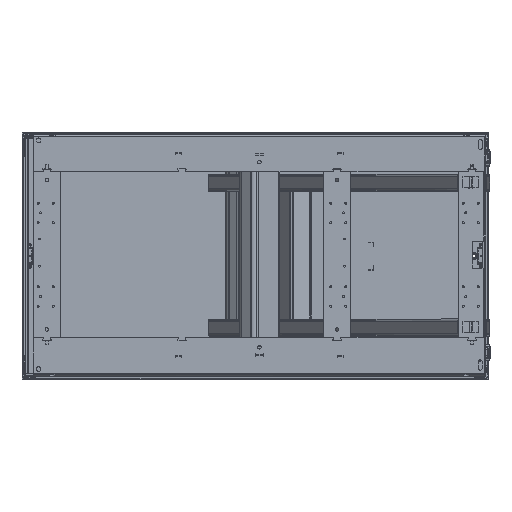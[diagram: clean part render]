
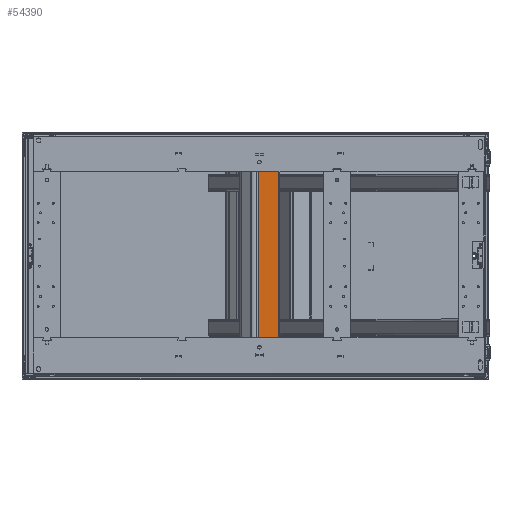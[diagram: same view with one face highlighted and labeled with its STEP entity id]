
A CAD part, top view. The second image highlights one B-rep face of the part: STEP entity #54390.
In plain terms, the highlighted planar face has unit normal (0.794, 0, 0.608) as drawn and (1, 0, 0) by its records, which use the part's own axes.
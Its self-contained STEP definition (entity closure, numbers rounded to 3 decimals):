
#3573=PLANE('',#58209);
#6021=LINE('',#81991,#10830);
#6022=LINE('',#81993,#10831);
#6023=LINE('',#81995,#10832);
#6024=LINE('',#81996,#10833);
#10830=VECTOR('',#66417,120.);
#10831=VECTOR('',#66418,650.);
#10832=VECTOR('',#66419,120.);
#10833=VECTOR('',#66420,650.);
#15640=FACE_OUTER_BOUND('',#18781,.T.);
#18781=EDGE_LOOP('',(#41258,#41259,#41260,#41261));
#25025=VERTEX_POINT('',#81989);
#25026=VERTEX_POINT('',#81990);
#25027=VERTEX_POINT('',#81992);
#25028=VERTEX_POINT('',#81994);
#31068=EDGE_CURVE('',#25025,#25026,#6021,.T.);
#31069=EDGE_CURVE('',#25027,#25026,#6022,.T.);
#31070=EDGE_CURVE('',#25028,#25027,#6023,.T.);
#31071=EDGE_CURVE('',#25028,#25025,#6024,.T.);
#41258=ORIENTED_EDGE('',*,*,#31068,.T.);
#41259=ORIENTED_EDGE('',*,*,#31069,.F.);
#41260=ORIENTED_EDGE('',*,*,#31070,.F.);
#41261=ORIENTED_EDGE('',*,*,#31071,.T.);
#54390=ADVANCED_FACE('',(#15640),#3573,.T.);
#58209=AXIS2_PLACEMENT_3D('',#81988,#66415,#66416);
#66415=DIRECTION('center_axis',(1.,0.,0.));
#66416=DIRECTION('ref_axis',(0.,0.,-1.));
#66417=DIRECTION('',(0.,-1.,0.));
#66418=DIRECTION('',(0.,0.,1.));
#66419=DIRECTION('',(0.,-1.,0.));
#66420=DIRECTION('',(0.,0.,1.));
#81988=CARTESIAN_POINT('Origin',(40.,60.,0.));
#81989=CARTESIAN_POINT('',(40.,60.,650.));
#81990=CARTESIAN_POINT('',(40.,-60.,650.));
#81991=CARTESIAN_POINT('',(40.,30.,650.));
#81992=CARTESIAN_POINT('',(40.,-60.,0.));
#81993=CARTESIAN_POINT('',(40.,-60.,0.));
#81994=CARTESIAN_POINT('',(40.,60.,0.));
#81995=CARTESIAN_POINT('',(40.,30.,0.));
#81996=CARTESIAN_POINT('',(40.,60.,0.));
